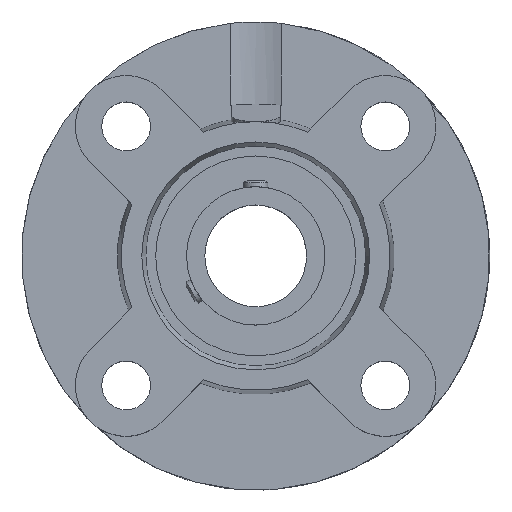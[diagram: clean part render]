
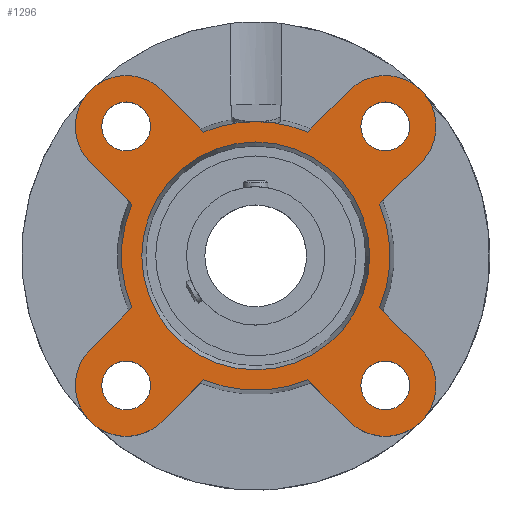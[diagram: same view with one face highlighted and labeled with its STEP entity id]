
A CAD part, top view. The second image highlights one B-rep face of the part: STEP entity #1296.
In plain terms, the highlighted planar face has unit normal (0, 0, 1).
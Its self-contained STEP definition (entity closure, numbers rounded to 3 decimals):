
#123=CARTESIAN_POINT('',(-25.82,-31.82,15.0));
#124=VERTEX_POINT('',#123);
#125=CARTESIAN_POINT('',(-31.82,-31.82,15.0));
#126=DIRECTION('',(0.0,0.0,-1.0));
#127=DIRECTION('',(1.0,0.0,0.0));
#128=AXIS2_PLACEMENT_3D('',#125,#126,#127);
#129=CIRCLE('',#128,6.);
#130=EDGE_CURVE('',#124,#124,#129,.T.);
#151=CARTESIAN_POINT('',(-25.82,31.82,15.));
#152=VERTEX_POINT('',#151);
#153=CARTESIAN_POINT('',(-31.82,31.82,15.));
#154=DIRECTION('',(0.0,0.0,-1.0));
#155=DIRECTION('',(1.0,0.0,0.0));
#156=AXIS2_PLACEMENT_3D('',#153,#154,#155);
#157=CIRCLE('',#156,6.);
#158=EDGE_CURVE('',#152,#152,#157,.T.);
#179=CARTESIAN_POINT('',(37.82,31.82,15.));
#180=VERTEX_POINT('',#179);
#181=CARTESIAN_POINT('',(31.82,31.82,15.));
#182=DIRECTION('',(0.0,0.0,-1.0));
#183=DIRECTION('',(1.0,0.0,0.0));
#184=AXIS2_PLACEMENT_3D('',#181,#182,#183);
#185=CIRCLE('',#184,6.);
#186=EDGE_CURVE('',#180,#180,#185,.T.);
#207=CARTESIAN_POINT('',(37.82,-31.82,15.0));
#208=VERTEX_POINT('',#207);
#209=CARTESIAN_POINT('',(31.82,-31.82,15.0));
#210=DIRECTION('',(0.0,0.0,-1.0));
#211=DIRECTION('',(1.0,0.0,0.0));
#212=AXIS2_PLACEMENT_3D('',#209,#210,#211);
#213=CIRCLE('',#212,6.);
#214=EDGE_CURVE('',#208,#208,#213,.T.);
#312=CARTESIAN_POINT('',(0.0,28.0,15.0));
#313=VERTEX_POINT('',#312);
#314=CARTESIAN_POINT('',(0.0,0.,15.));
#315=DIRECTION('',(0.0,0.0,-1.0));
#316=DIRECTION('',(0.0,1.0,0.0));
#317=AXIS2_PLACEMENT_3D('',#314,#315,#316);
#318=CIRCLE('',#317,28.);
#319=EDGE_CURVE('',#313,#313,#318,.T.);
#597=CARTESIAN_POINT('',(0.,33.,15.));
#598=VERTEX_POINT('',#597);
#752=CARTESIAN_POINT('',(-12.757,30.435,15.));
#753=VERTEX_POINT('',#752);
#767=CARTESIAN_POINT('',(0.0,0.,15.));
#768=DIRECTION('',(0.0,0.0,1.0));
#769=DIRECTION('',(0.0,-1.0,0.0));
#770=AXIS2_PLACEMENT_3D('',#767,#768,#769);
#771=CIRCLE('',#770,33.);
#772=EDGE_CURVE('',#598,#753,#771,.T.);
#782=CARTESIAN_POINT('',(-12.757,-30.435,15.0));
#783=VERTEX_POINT('',#782);
#799=CARTESIAN_POINT('',(-22.981,-40.659,15.));
#800=VERTEX_POINT('',#799);
#801=CARTESIAN_POINT('',(-12.757,-30.435,15.0));
#802=DIRECTION('',(-0.707,-0.707,0.));
#803=VECTOR('',#802,14.459);
#804=LINE('',#801,#803);
#805=EDGE_CURVE('',#783,#800,#804,.T.);
#829=CARTESIAN_POINT('',(-30.435,12.757,15.));
#830=VERTEX_POINT('',#829);
#846=CARTESIAN_POINT('',(-40.659,22.981,15.));
#847=VERTEX_POINT('',#846);
#848=CARTESIAN_POINT('',(-30.435,12.757,15.));
#849=DIRECTION('',(-0.707,0.707,0.));
#850=VECTOR('',#849,14.459);
#851=LINE('',#848,#850);
#852=EDGE_CURVE('',#830,#847,#851,.T.);
#876=CARTESIAN_POINT('',(30.435,-12.757,15.));
#877=VERTEX_POINT('',#876);
#893=CARTESIAN_POINT('',(40.659,-22.981,15.));
#894=VERTEX_POINT('',#893);
#895=CARTESIAN_POINT('',(30.435,-12.757,15.));
#896=DIRECTION('',(0.707,-0.707,0.));
#897=VECTOR('',#896,14.459);
#898=LINE('',#895,#897);
#899=EDGE_CURVE('',#877,#894,#898,.T.);
#923=CARTESIAN_POINT('',(12.757,30.435,15.));
#924=VERTEX_POINT('',#923);
#938=CARTESIAN_POINT('',(22.981,40.659,15.));
#939=VERTEX_POINT('',#938);
#940=CARTESIAN_POINT('',(12.757,30.435,15.));
#941=DIRECTION('',(0.707,0.707,0.));
#942=VECTOR('',#941,14.459);
#943=LINE('',#940,#942);
#944=EDGE_CURVE('',#924,#939,#943,.T.);
#963=CARTESIAN_POINT('',(30.435,12.757,15.));
#964=VERTEX_POINT('',#963);
#986=CARTESIAN_POINT('',(40.659,22.981,15.));
#987=VERTEX_POINT('',#986);
#994=CARTESIAN_POINT('',(40.659,22.981,15.));
#995=DIRECTION('',(-0.707,-0.707,0.));
#996=VECTOR('',#995,14.459);
#997=LINE('',#994,#996);
#998=EDGE_CURVE('',#987,#964,#997,.T.);
#1008=CARTESIAN_POINT('',(-40.659,-22.981,15.));
#1009=VERTEX_POINT('',#1008);
#1010=CARTESIAN_POINT('',(-31.82,-31.82,15.));
#1011=DIRECTION('',(0.0,0.0,-1.0));
#1012=DIRECTION('',(-0.707,0.707,0.0));
#1013=AXIS2_PLACEMENT_3D('',#1010,#1011,#1012);
#1014=CIRCLE('',#1013,12.5);
#1015=EDGE_CURVE('',#800,#1009,#1014,.T.);
#1050=CARTESIAN_POINT('',(-30.435,-12.757,15.));
#1051=VERTEX_POINT('',#1050);
#1072=CARTESIAN_POINT('',(-40.659,-22.981,15.));
#1073=DIRECTION('',(0.707,0.707,0.));
#1074=VECTOR('',#1073,14.459);
#1075=LINE('',#1072,#1074);
#1076=EDGE_CURVE('',#1009,#1051,#1075,.T.);
#1086=CARTESIAN_POINT('',(-22.981,40.659,15.));
#1087=VERTEX_POINT('',#1086);
#1088=CARTESIAN_POINT('',(-31.82,31.82,15.));
#1089=DIRECTION('',(0.0,0.0,-1.0));
#1090=DIRECTION('',(0.707,0.707,0.0));
#1091=AXIS2_PLACEMENT_3D('',#1088,#1089,#1090);
#1092=CIRCLE('',#1091,12.5);
#1093=EDGE_CURVE('',#847,#1087,#1092,.T.);
#1121=CARTESIAN_POINT('',(-22.981,40.659,15.));
#1122=DIRECTION('',(0.707,-0.707,0.));
#1123=VECTOR('',#1122,14.459);
#1124=LINE('',#1121,#1123);
#1125=EDGE_CURVE('',#1087,#753,#1124,.T.);
#1135=CARTESIAN_POINT('',(22.981,-40.659,15.));
#1136=VERTEX_POINT('',#1135);
#1137=CARTESIAN_POINT('',(31.82,-31.82,15.));
#1138=DIRECTION('',(0.0,0.0,-1.0));
#1139=DIRECTION('',(-0.707,-0.707,0.0));
#1140=AXIS2_PLACEMENT_3D('',#1137,#1138,#1139);
#1141=CIRCLE('',#1140,12.5);
#1142=EDGE_CURVE('',#894,#1136,#1141,.T.);
#1177=CARTESIAN_POINT('',(12.757,-30.435,15.0));
#1178=VERTEX_POINT('',#1177);
#1199=CARTESIAN_POINT('',(22.981,-40.659,15.));
#1200=DIRECTION('',(-0.707,0.707,0.));
#1201=VECTOR('',#1200,14.459);
#1202=LINE('',#1199,#1201);
#1203=EDGE_CURVE('',#1136,#1178,#1202,.T.);
#1213=CARTESIAN_POINT('',(31.82,31.82,15.));
#1214=DIRECTION('',(0.0,0.0,-1.0));
#1215=DIRECTION('',(0.707,-0.707,0.0));
#1216=AXIS2_PLACEMENT_3D('',#1213,#1214,#1215);
#1217=CIRCLE('',#1216,12.5);
#1218=EDGE_CURVE('',#939,#987,#1217,.T.);
#1233=CARTESIAN_POINT('',(0.0,-16.5,15.));
#1234=DIRECTION('',(0.0,0.0,1.0));
#1235=DIRECTION('',(1.0,0.0,0.0));
#1236=AXIS2_PLACEMENT_3D('',#1233,#1234,#1235);
#1237=PLANE('',#1236);
#1238=CARTESIAN_POINT('',(0.0,0.,15.));
#1239=DIRECTION('',(0.0,0.0,1.0));
#1240=DIRECTION('',(0.0,-1.0,0.0));
#1241=AXIS2_PLACEMENT_3D('',#1238,#1239,#1240);
#1242=CIRCLE('',#1241,33.);
#1243=EDGE_CURVE('',#783,#1178,#1242,.T.);
#1244=ORIENTED_EDGE('',*,*,#1243,.T.);
#1245=ORIENTED_EDGE('',*,*,#1203,.F.);
#1246=ORIENTED_EDGE('',*,*,#1142,.F.);
#1247=ORIENTED_EDGE('',*,*,#899,.F.);
#1248=CARTESIAN_POINT('',(0.0,0.,15.));
#1249=DIRECTION('',(0.0,0.0,1.0));
#1250=DIRECTION('',(0.0,-1.0,0.0));
#1251=AXIS2_PLACEMENT_3D('',#1248,#1249,#1250);
#1252=CIRCLE('',#1251,33.);
#1253=EDGE_CURVE('',#877,#964,#1252,.T.);
#1254=ORIENTED_EDGE('',*,*,#1253,.T.);
#1255=ORIENTED_EDGE('',*,*,#998,.F.);
#1256=ORIENTED_EDGE('',*,*,#1218,.F.);
#1257=ORIENTED_EDGE('',*,*,#944,.F.);
#1258=CARTESIAN_POINT('',(0.0,0.,15.));
#1259=DIRECTION('',(0.0,0.0,1.0));
#1260=DIRECTION('',(0.0,-1.0,0.0));
#1261=AXIS2_PLACEMENT_3D('',#1258,#1259,#1260);
#1262=CIRCLE('',#1261,33.);
#1263=EDGE_CURVE('',#924,#598,#1262,.T.);
#1264=ORIENTED_EDGE('',*,*,#1263,.T.);
#1265=ORIENTED_EDGE('',*,*,#772,.T.);
#1266=ORIENTED_EDGE('',*,*,#1125,.F.);
#1267=ORIENTED_EDGE('',*,*,#1093,.F.);
#1268=ORIENTED_EDGE('',*,*,#852,.F.);
#1269=CARTESIAN_POINT('',(0.0,0.,15.));
#1270=DIRECTION('',(0.0,0.0,1.0));
#1271=DIRECTION('',(0.0,-1.0,0.0));
#1272=AXIS2_PLACEMENT_3D('',#1269,#1270,#1271);
#1273=CIRCLE('',#1272,33.);
#1274=EDGE_CURVE('',#830,#1051,#1273,.T.);
#1275=ORIENTED_EDGE('',*,*,#1274,.T.);
#1276=ORIENTED_EDGE('',*,*,#1076,.F.);
#1277=ORIENTED_EDGE('',*,*,#1015,.F.);
#1278=ORIENTED_EDGE('',*,*,#805,.F.);
#1279=EDGE_LOOP('',(#1244,#1245,#1246,#1247,#1254,#1255,#1256,#1257,#1264,#1265,#1266,#1267,#1268,#1275,#1276,#1277,#1278));
#1280=FACE_OUTER_BOUND('',#1279,.T.);
#1281=ORIENTED_EDGE('',*,*,#130,.T.);
#1282=EDGE_LOOP('',(#1281));
#1283=FACE_BOUND('',#1282,.T.);
#1284=ORIENTED_EDGE('',*,*,#158,.T.);
#1285=EDGE_LOOP('',(#1284));
#1286=FACE_BOUND('',#1285,.T.);
#1287=ORIENTED_EDGE('',*,*,#186,.T.);
#1288=EDGE_LOOP('',(#1287));
#1289=FACE_BOUND('',#1288,.T.);
#1290=ORIENTED_EDGE('',*,*,#214,.T.);
#1291=EDGE_LOOP('',(#1290));
#1292=FACE_BOUND('',#1291,.T.);
#1293=ORIENTED_EDGE('',*,*,#319,.T.);
#1294=EDGE_LOOP('',(#1293));
#1295=FACE_BOUND('',#1294,.T.);
#1296=ADVANCED_FACE('',(#1280,#1283,#1286,#1289,#1292,#1295),#1237,.T.);
